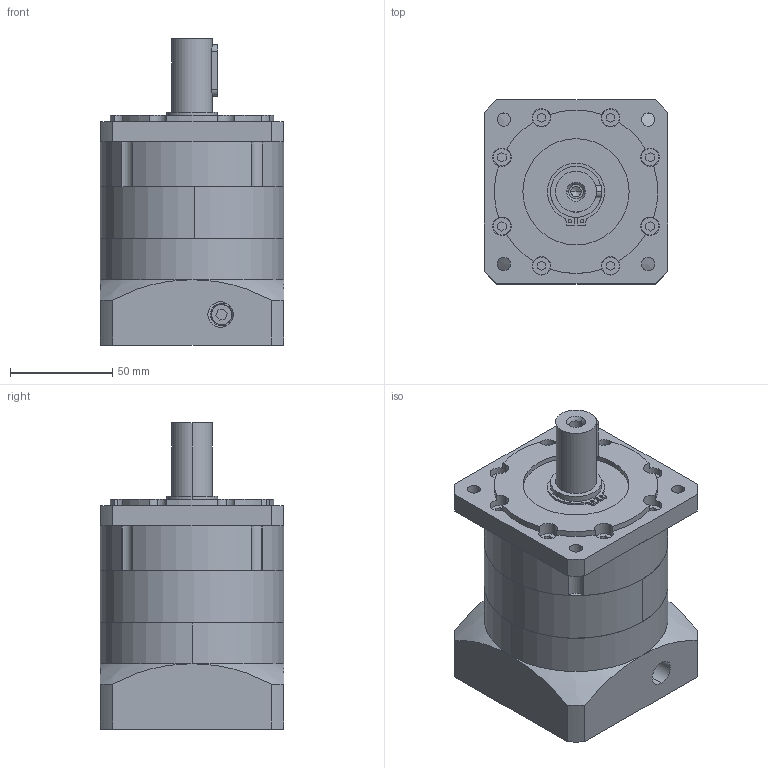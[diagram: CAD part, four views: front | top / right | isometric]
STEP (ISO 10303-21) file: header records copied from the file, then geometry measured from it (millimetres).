
FILE_DESCRIPTION (( 'STEP AP214' ), '1' );
FILE_NAME ('PLF-090-L1-S2-P2 19-70-90-M5.STEP', '2021-04-13T05:45:00', ( '微软用户' ), ( '微软中国' ), 'SwSTEP 2.0', 'SolidWorks 2014', '' );
FILE_SCHEMA (( 'AUTOMOTIVE_DESIGN' ));
Length unit declared in the file: millimetre
Products named in the file (15): 邧埴瑩 6x6x25; 囀鞠褒蹟佪 M6x20; PLF90 狟屳唳_D6-90 D7-19 梓袧; PLF90 κｳﾝﾈｦ-ﾓﾅｻｯ_ﾒｻｼｶﾄﾚｳﾝﾈｦ; 粣創-6007 35x62x14; PLF90 蟀諉啣-梓袧_D8-70 D9-90 D10-M5 A2-90 L4-32 L6-47(32+15) L7-6 R-59.5梓袧; PLF90 奻屳唳_梓袧; PLF-090-L1-S2-P2 19-70-90-M5
Assembly tree (7 placements, depth 2):
  PLF90 狟屳唳_D6-90 D7-19 梓袧
  粣創-6007 35x62x14
  PLF90 κｳﾝﾈｦ-ﾓﾅｻｯ_ﾒｻｼｶﾄﾚｳﾝﾈｦ
  PLF90 蟀諉啣-梓袧_D8-70 D9-90 D10-M5 A2-90 L4-32 L6-47(32+15) L7-6 R-59.5梓袧
  囀鞠褒蹟佪 M6x20
Bounding box: 90 x 90 x 150 mm (x, y, z)
Volume: 682271.1 mm3; surface area: 139449 mm2
Topology: 7 solids, 7 shells, 537 faces, 1456 edges, 952 vertices
Faces by surface type: cylinder 195, plane 188, bspline 140, cone 14
Entity records: 28329 total; most frequent: CARTESIAN_POINT 9132, ORIENTED_EDGE 2892, DIRECTION 2479, EDGE_CURVE 1446, AXIS2_PLACEMENT_3D 1003, VERTEX_POINT 952, EDGE_LOOP 638, CIRCLE 595
